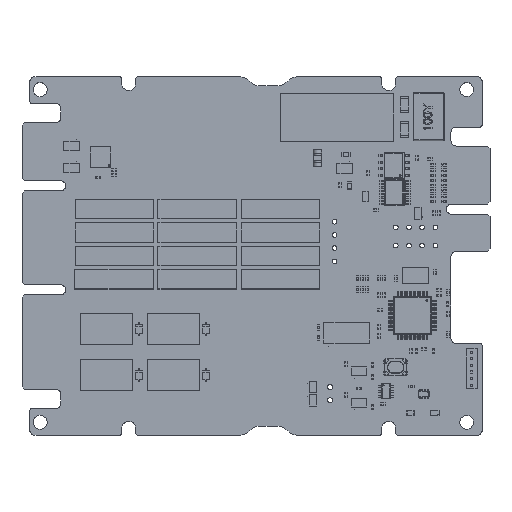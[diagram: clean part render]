
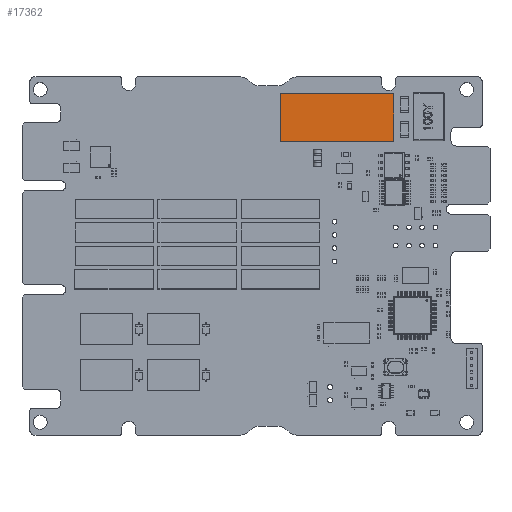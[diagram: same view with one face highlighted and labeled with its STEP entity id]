
A CAD part, top view. The second image highlights one B-rep face of the part: STEP entity #17362.
In plain terms, the highlighted planar face has unit normal (0, 0, 1).
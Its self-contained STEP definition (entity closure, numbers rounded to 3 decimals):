
#17241 = VERTEX_POINT('',#17242);
#17242 = CARTESIAN_POINT('',(49.713,65.697,11.1));
#17248 = EDGE_CURVE('',#17249,#17241,#17251,.T.);
#17249 = VERTEX_POINT('',#17250);
#17250 = CARTESIAN_POINT('',(71.507,65.697,11.1));
#17251 = LINE('',#17252,#17253);
#17252 = CARTESIAN_POINT('',(71.507,65.697,11.1));
#17253 = VECTOR('',#17254,1.);
#17254 = DIRECTION('',(-1.,0.,0.));
#17279 = VERTEX_POINT('',#17280);
#17280 = CARTESIAN_POINT('',(49.713,56.503,11.1));
#17286 = EDGE_CURVE('',#17241,#17279,#17287,.T.);
#17287 = LINE('',#17288,#17289);
#17288 = CARTESIAN_POINT('',(49.713,65.697,11.1));
#17289 = VECTOR('',#17290,1.);
#17290 = DIRECTION('',(0.,-1.,0.));
#17310 = VERTEX_POINT('',#17311);
#17311 = CARTESIAN_POINT('',(71.507,56.503,11.1));
#17317 = EDGE_CURVE('',#17279,#17310,#17318,.T.);
#17318 = LINE('',#17319,#17320);
#17319 = CARTESIAN_POINT('',(49.713,56.503,11.1));
#17320 = VECTOR('',#17321,1.);
#17321 = DIRECTION('',(1.,0.,0.));
#17339 = EDGE_CURVE('',#17310,#17249,#17340,.T.);
#17340 = LINE('',#17341,#17342);
#17341 = CARTESIAN_POINT('',(71.507,56.503,11.1));
#17342 = VECTOR('',#17343,1.);
#17343 = DIRECTION('',(0.,1.,0.));
#17362 = ADVANCED_FACE('',(#17363),#17369,.T.);
#17363 = FACE_BOUND('',#17364,.T.);
#17364 = EDGE_LOOP('',(#17365,#17366,#17367,#17368));
#17365 = ORIENTED_EDGE('',*,*,#17248,.T.);
#17366 = ORIENTED_EDGE('',*,*,#17286,.T.);
#17367 = ORIENTED_EDGE('',*,*,#17317,.T.);
#17368 = ORIENTED_EDGE('',*,*,#17339,.T.);
#17369 = PLANE('',#17370);
#17370 = AXIS2_PLACEMENT_3D('',#17371,#17372,#17373);
#17371 = CARTESIAN_POINT('',(71.507,65.697,11.1));
#17372 = DIRECTION('',(0.,0.,1.));
#17373 = DIRECTION('',(0.,-1.,0.));
